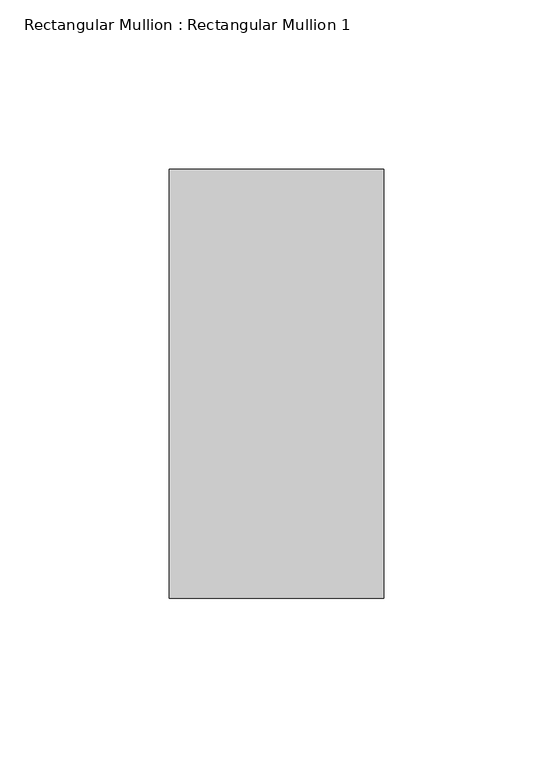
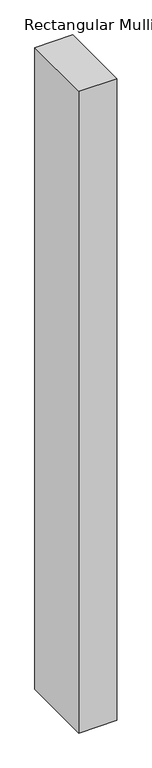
"""IFC4 building model written with IfcOpenShell, lengths in millimetres: member geometry, Rectangular Mullion : Rectangular Mullion 1."""

from ifc_helpers import new_model, si_unit, frame, origin, place, context, project, spatial, polyline, outline, extrude, source, transform, mapped, element, save


def rectangular_mullion_rectangular_mullion_1_47d101d4(model_context):
    return source(origin(), model_context, "Body", "SweptSolid", [
        extrude(outline(polyline([(0.0, 63.5), (0.0, -63.5), (-63.5, -63.5), (-63.5, 63.5), (0.0, 63.5)])), frame((0.0, 0.0, -1132.2092009), z_axis=(0.0, 0.0, 1.0), x_axis=(1.0, 0.0, 0.0)), (0.0, 0.0, 1.0), 1132.2092009),
    ])


if __name__ == "__main__":
    model = new_model("IFC4")
    model_context = context("Model", 3, world=origin())
    ifc_project = project(units=[si_unit("LENGTHUNIT", "METRE", prefix="MILLI")], contexts=[model_context])
    site = spatial("IfcSite", under=ifc_project)
    building = spatial("IfcBuilding", under=site)
    placement = place(None, origin())
    rectangular_mullion_rectangular_mullion_1_shape = rectangular_mullion_rectangular_mullion_1_47d101d4(model_context)
    element("IfcMember", 1, ObjectType="Rectangular Mullion : Rectangular Mullion 1", at=placement, inside=building, context=model_context, shape_type="MappedRepresentation", body=[
        mapped(rectangular_mullion_rectangular_mullion_1_shape, transform((0.0, 0.0, 0.0), x_axis=(1.0, 0.0, 0.0), y_axis=(0.0, 1.0, 0.0), z_axis=(0.0, 0.0, 1.0))),
    ])
    save(model, "model.ifc")
